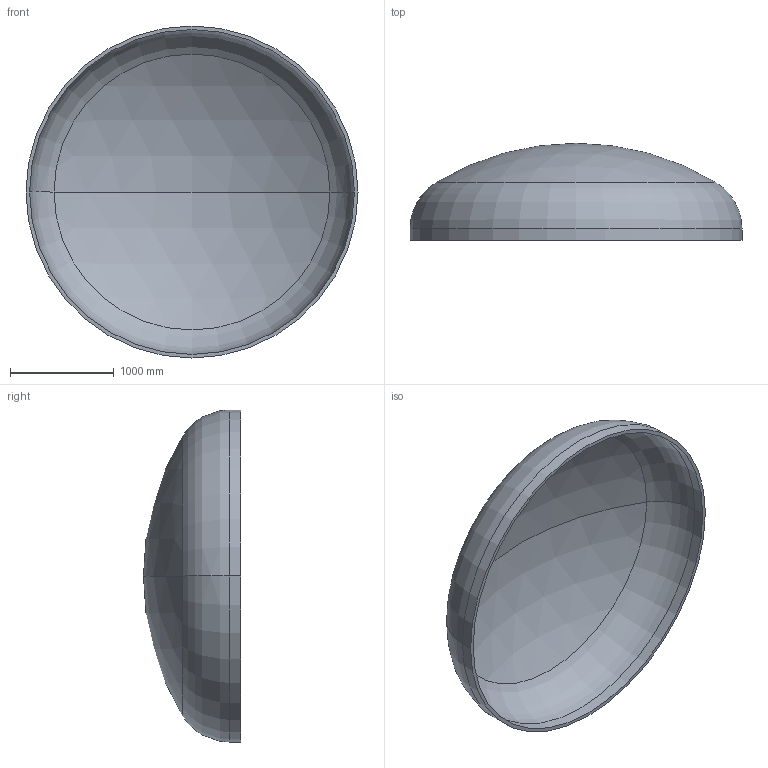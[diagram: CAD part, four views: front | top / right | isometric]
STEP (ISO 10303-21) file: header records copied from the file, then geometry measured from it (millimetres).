
FILE_DESCRIPTION (( 'STEP AP203' ), '1' );
FILE_NAME ('DIN 28013 Korbbogenform_-_Boden DIN 28013 - 3200 x 110 - I - s=35.step', '2016-07-01T18:33:18', ( '' ), ( '' ), 'SwSTEP 2.0', 'SolidWorks 2013', '' );
FILE_SCHEMA (( 'CONFIG_CONTROL_DESIGN' ));
Length unit declared in the file: millimetre
Products named in the file (1): DIN 28013 Korbbogenform_-_Boden DIN 28013 - 3200 x 110 - I - s=35
Bounding box: 3200 x 936.02 x 3200 mm (x, y, z)
Volume: 422109206.6 mm3; surface area: 24471092.9 mm2
Topology: 1 solids, 1 shells, 13 faces, 24 edges, 14 vertices
Faces by surface type: torus 4, cylinder 4, sphere 4, plane 1
Entity records: 407 total; most frequent: DIRECTION 72, CARTESIAN_POINT 52, ORIENTED_EDGE 48, AXIS2_PLACEMENT_3D 34, EDGE_CURVE 24, CIRCLE 20, EDGE_LOOP 14, VERTEX_POINT 14
